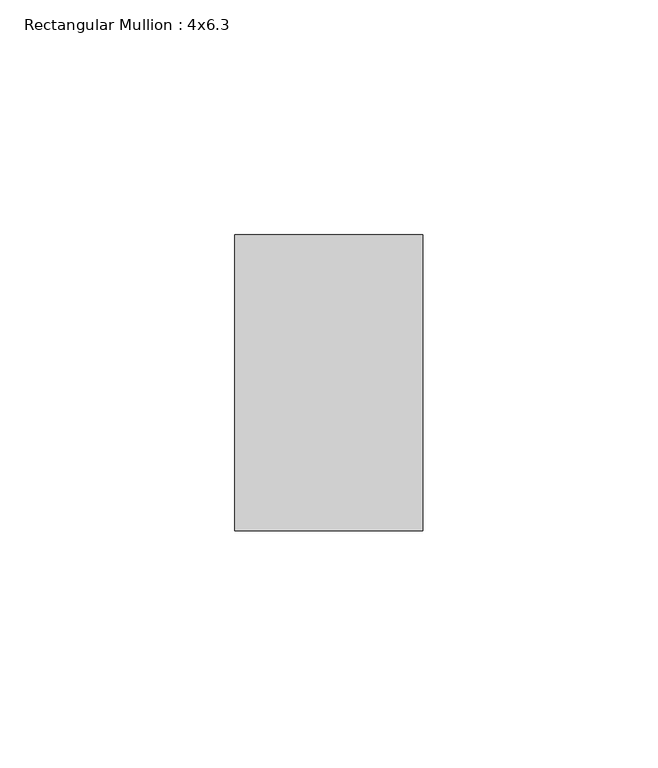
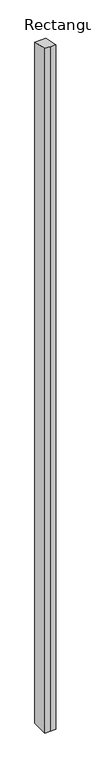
"""IFC4 building model written with IfcOpenShell, lengths in millimetres: member geometry, Rectangular Mullion : 4x6.3."""

from ifc_helpers import new_model, si_unit, origin, place, context, project, spatial, faceted_brep, source, transform, mapped, element, save


def rectangular_mullion_4x6_3_1934073e(model_context):
    return source(origin(), model_context, "Body", "Brep", [
        faceted_brep([(-20.0, 20.0, -2656.4531917), (-20.0, 83.0, -2656.4531917), (20.0, 83.0, -2656.4531917), (20.0, 20.0, -2656.4531917), (0.0, 20.0, -2656.4531917), (0.0, 20.0, -4.3995804), (-20.0, 20.0, -4.3995804), (20.0, 20.0, -4.3995804), (20.0, 83.0, -18.2582585), (-20.0, 83.0, -18.2582585)], [[[0, 1, 2, 3, 4]], [[5, 6, 0, 4]], [[7, 5, 4, 3]], [[8, 7, 3, 2]], [[9, 8, 2, 1]], [[6, 9, 1, 0]], [[6, 5, 7, 8, 9]]]),
    ])


if __name__ == "__main__":
    model = new_model("IFC4")
    model_context = context("Model", 3, world=origin())
    ifc_project = project(units=[si_unit("LENGTHUNIT", "METRE", prefix="MILLI")], contexts=[model_context])
    site = spatial("IfcSite", under=ifc_project)
    building = spatial("IfcBuilding", under=site)
    placement = place(None, origin())
    rectangular_mullion_4x6_3_shape = rectangular_mullion_4x6_3_1934073e(model_context)
    element("IfcMember", 1, ObjectType="Rectangular Mullion : 4x6.3", at=placement, inside=building, context=model_context, shape_type="MappedRepresentation", body=[
        mapped(rectangular_mullion_4x6_3_shape, transform((0.0, 0.0, 0.0), x_axis=(1.0, 0.0, 0.0), y_axis=(0.0, 1.0, 0.0), z_axis=(0.0, 0.0, 1.0))),
    ])
    save(model, "model.ifc")
